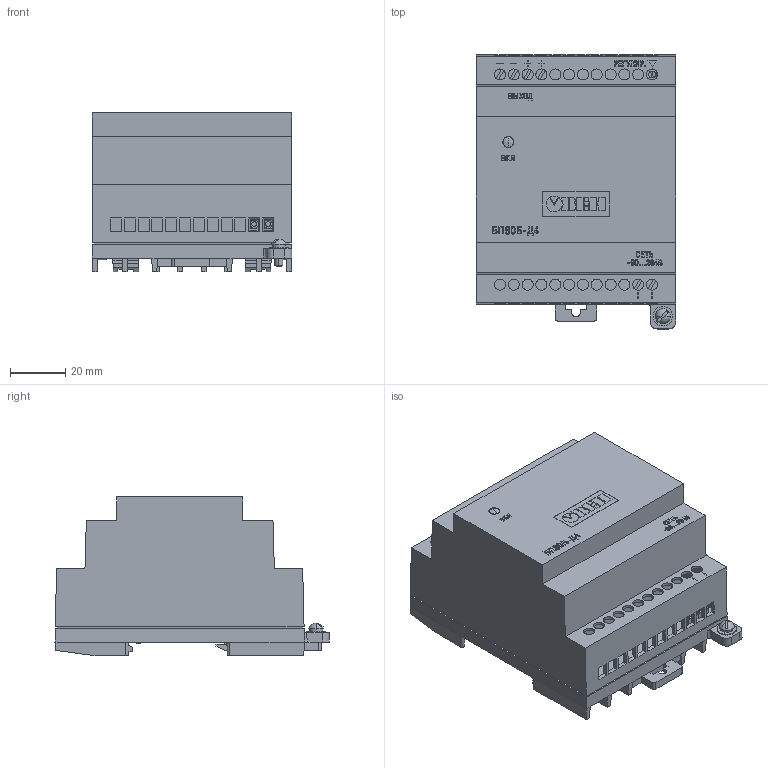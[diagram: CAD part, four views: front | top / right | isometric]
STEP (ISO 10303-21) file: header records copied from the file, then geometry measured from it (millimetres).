
FILE_DESCRIPTION (( 'STEP AP214' ), '1' );
FILE_NAME ('3D Ìîäåëü ÁÏ60Á-Ä4-24Ñ.STEP', '2015-08-19T12:09:14', ( '' ), ( '' ), 'SwSTEP 2.0', 'SolidWorks 2013', '' );
FILE_SCHEMA (( 'AUTOMOTIVE_DESIGN' ));
Length unit declared in the file: millimetre
Products named in the file (10): 椯鴀殣罻; Êëåììà íèçêàÿ_11õ8õ5ìì; Êîðïóñ Ä4-24Ñ; 3D Ìîäåëü ÁÏ60Á-Ä4-24Ñ; Ôèêñàòîð òèï2; Øàéáà ãðîâåðà M3 ÃÎÑÒ 6402_˜ ©¡  3.65ƒ.019 ƒŽ‘’ 6402; ﾘ琺矜 M3_3,0; 鎔艜 襞旂 17473_M3x8; ðåãóëÿòîð; ﾈ淸韭瑣ⅱ
Assembly tree (14 placements, depth 2):
  3D Ìîäåëü ÁÏ60Á-Ä4-24Ñ
    Êîðïóñ Ä4-24Ñ
    Êëåììà íèçêàÿ_11õ8õ5ìì  x6
    椯鴀殣罻
    ﾈ淸韭瑣ⅱ
    ðåãóëÿòîð
    鎔艜 襞旂 17473_M3x8
    ﾘ琺矜 M3_3,0
    Øàéáà ãðîâåðà M3 ÃÎÑÒ 6402_˜ ©¡  3.65ƒ.019 ƒŽ‘’ 6402
    Ôèêñàòîð òèï2
Bounding box: 72.17 x 99.11 x 57.8 mm (x, y, z)
Volume: 210553.3 mm3; surface area: 57296.2 mm2
Topology: 15 solids, 15 shells, 1303 faces, 3408 edges, 2250 vertices
Faces by surface type: plane 1004, cylinder 157, bspline 128, cone 8, sphere 4, torus 2
Entity records: 46208 total; most frequent: CARTESIAN_POINT 10603, ORIENTED_EDGE 5776, DIRECTION 4852, EDGE_CURVE 2888, VECTOR 2356, LINE 2356, VERTEX_POINT 1910, EDGE_LOOP 1288
